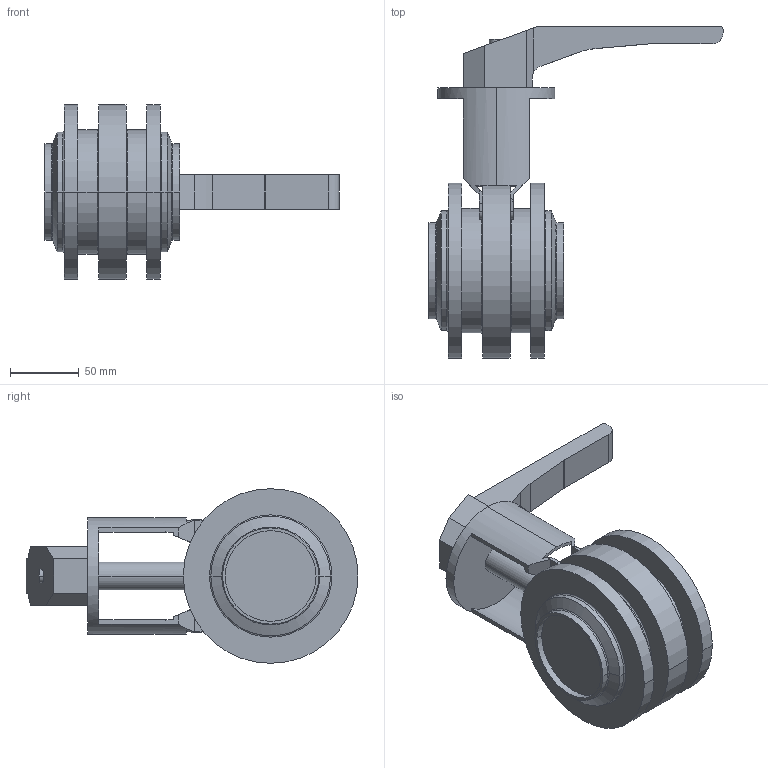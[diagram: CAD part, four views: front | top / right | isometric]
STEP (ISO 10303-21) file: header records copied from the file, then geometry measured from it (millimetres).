
FILE_DESCRIPTION(('Creo Elements/Direct Modeling STEP Export'),'2;1');
FILE_NAME('SVS1F-65-HL-12S.stp','2015-02-10T16:42:37',(''),(''),'Creo Elements/Direct Modeling STEP processor for AP214 (Solid Model)','Creo Elements/Direct Modeling 17.0D 15-Jul-2011 (C) Parametric Technology GmbH','');
FILE_SCHEMA(('AUTOMOTIVE_DESIGN { 1 0 10303 214 1 1 1 1 }'));
Length unit declared in the file: millimetre
Products named in the file (4): SV_Laterne_HL_65_100; Handhebel-SV-40-100; SVS1F-65-H-12S; SVS1F-65-HL-12S
Assembly tree (3 placements, depth 2):
  SVS1F-65-HL-12S
    SVS1F-65-H-12S
    Handhebel-SV-40-100
    SV_Laterne_HL_65_100
Bounding box: 214 x 241.45 x 127 mm (x, y, z)
Volume: 1013527.7 mm3; surface area: 137971.4 mm2
Topology: 3 solids, 3 shells, 157 faces, 399 edges, 258 vertices
Faces by surface type: plane 92, cylinder 49, torus 12, cone 4
Entity records: 4978 total; most frequent: CARTESIAN_POINT 1157, ORIENTED_EDGE 798, DIRECTION 761, EDGE_CURVE 399, AXIS2_PLACEMENT_3D 264, VERTEX_POINT 258, VECTOR 233, LINE 233
